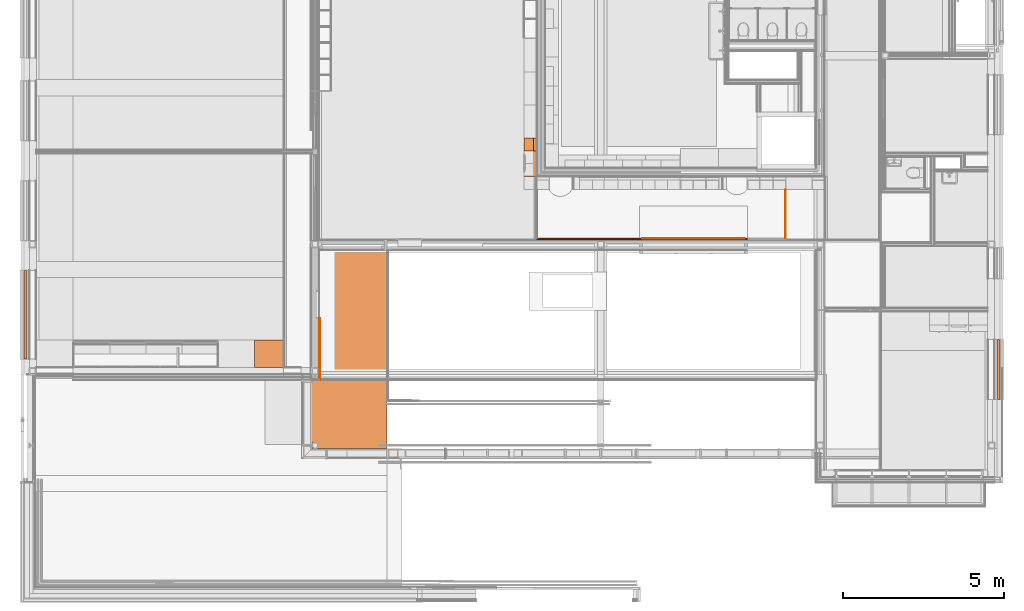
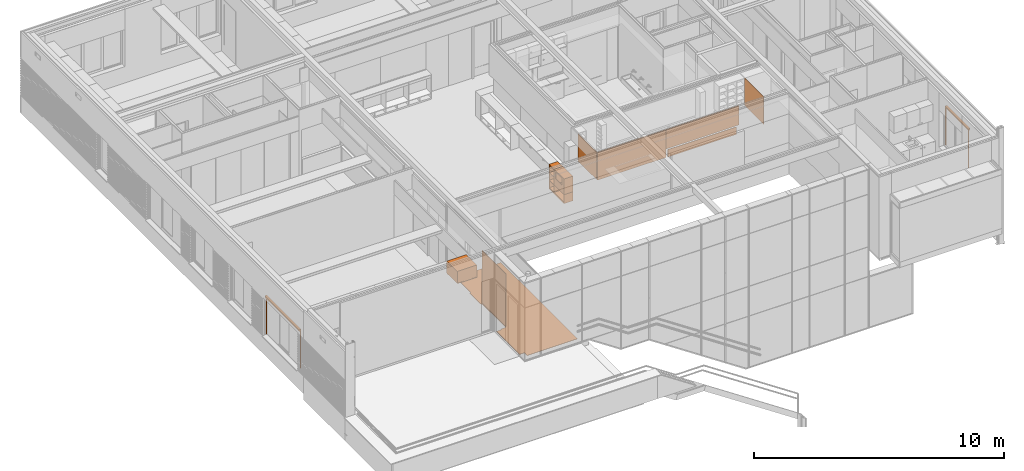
# One storey, part 127 of 137: 13 proxies.
"""IFC2X3 building model written with IfcOpenShell, lengths in millimetres."""

from ifc_helpers import new_model, entity, si_unit, converted_unit, derived_unit, money_unit, direction, frame, origin_with_axes, place, context, subcontext, project, spatial, open_shell, faceted_brep, surface_model, material, type_object, element, save


model = new_model("IFC2X3")

# Units and contexts
model_context = context("Model", 3, precision=0.01, world=origin_with_axes(), true_north=direction((0.0, 1.0)))
body_context = subcontext(model_context, "Body", "Model", "MODEL_VIEW")
ifc_project = project(units=[si_unit("LENGTHUNIT", "METRE", prefix="MILLI"), si_unit("AREAUNIT", "SQUARE_METRE"), si_unit("VOLUMEUNIT", "CUBIC_METRE"), converted_unit("PLANEANGLEUNIT", "DEGREE", entity("IfcPlaneAngleMeasure", 0.0174532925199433), si_unit("PLANEANGLEUNIT", "RADIAN"), dimensions=[0, 0, 0, 0, 0, 0, 0]), money_unit("EUR"), converted_unit("TIMEUNIT", "Year", entity("IfcTimeMeasure", 31556926.0), si_unit("TIMEUNIT", "SECOND"), dimensions=[0, 0, 1, 0, 0, 0, 0]), si_unit("MASSUNIT", "GRAM", prefix="KILO"), si_unit("THERMODYNAMICTEMPERATUREUNIT", "DEGREE_CELSIUS"), si_unit("LUMINOUSINTENSITYUNIT", "LUMEN"), si_unit("ENERGYUNIT", "JOULE", prefix="MEGA"), derived_unit("THERMALCONDUCTANCEUNIT", [(si_unit("POWERUNIT", "WATT"), 1), (si_unit("LENGTHUNIT", "METRE"), -1), (si_unit("THERMODYNAMICTEMPERATUREUNIT", "KELVIN"), -1)]), derived_unit("SPECIFICHEATCAPACITYUNIT", [(si_unit("ENERGYUNIT", "JOULE"), 1), (si_unit("MASSUNIT", "GRAM", prefix="KILO"), -1), (si_unit("THERMODYNAMICTEMPERATUREUNIT", "KELVIN"), -1)]), derived_unit("MASSDENSITYUNIT", [(si_unit("MASSUNIT", "GRAM", prefix="KILO"), 1), (si_unit("VOLUMEUNIT", "CUBIC_METRE"), -1)])], contexts=[model_context])

# Site, building, storey
site_placement = place(None, origin_with_axes())
site = spatial("IfcSite", under=ifc_project, at=site_placement, Name="Site", CompositionType="ELEMENT")
building_placement = place(site_placement, origin_with_axes())
building = spatial("IfcBuilding", under=site, at=building_placement, Name="Naam gebouw", CompositionType="ELEMENT")
storey_placement = place(building_placement, frame((0.0, 0.0, 3960.0), z_axis=(0.0, 0.0, 1.0), x_axis=(1.0, 0.0, 0.0)))
storey = spatial("IfcBuildingStorey", under=building, at=storey_placement, Name="1e verdieping", CompositionType="ELEMENT", Elevation=3960.0)

# Proxies
ifc_material_1 = material(Name="ALG - ALGEMEEN")
building_element_proxy_type_1 = type_object("IfcBuildingElementProxyType", Name="ALG - ALGEMEEN 20", PredefinedType="NOTDEFINED")
proxy_1_placement = place(storey_placement, frame((23414.99903999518, 10945.00011055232, 2190.0), z_axis=(0.0, 0.0, 1.0), x_axis=(0.0, 1.0, 0.0)))
element("IfcBuildingElementProxy", 1, at=proxy_1_placement, inside=storey, type_object=building_element_proxy_type_1, material=ifc_material_1, Name="_Wand-x", context=body_context, shape_type="Brep", body=[
    faceted_brep([(54.99999999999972, -19.99999999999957, 1337.000000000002), (1559.997671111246, -19.99999999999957, 1337.000000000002), (1559.997671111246, 0.0, 1337.000000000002), (54.99999999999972, 0.0, 1337.000000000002), (54.99999999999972, -19.99999999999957, 0.0), (1559.997671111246, -19.99999999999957, 0.0), (1559.997671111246, 0.0, 0.0), (54.99999999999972, 0.0, 0.0)], [[[0, 1, 2, 3]], [[4, 5, 1, 0]], [[2, 1, 5, 6]], [[3, 2, 6, 7]], [[4, 0, 3, 7]], [[7, 6, 5, 4]]]),
])
proxy_2_placement = place(storey_placement, frame((22154.99942456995, 11005.00011055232, 2150.0), z_axis=(0.0, 0.0, 1.0), x_axis=(-1.0, 0.0, 0.0)))
element("IfcBuildingElementProxy", 2, at=proxy_2_placement, inside=storey, type_object=building_element_proxy_type_1, material=ifc_material_1, Name="_Wand-x", context=body_context, shape_type="Brep", body=[
    faceted_brep([(0.0, 19.99999999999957, 0.0), (3165.000000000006, 19.99999999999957, 0.0), (3165.000000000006, 0.0, 0.0), (0.0, 0.0, 0.0), (0.0, 19.99999999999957, 360.0000000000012), (3165.000000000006, 19.99999999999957, 360.0000000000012), (3165.000000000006, 0.0, 360.0000000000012), (0.0, 0.0, 360.0000000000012)], [[[0, 1, 2, 3]], [[4, 5, 1, 0]], [[2, 1, 5, 6]], [[3, 2, 6, 7]], [[4, 0, 3, 7]], [[7, 6, 5, 4]]]),
])
proxy_3_placement = place(storey_placement, frame((15734.9994538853, 11000.00011055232, 2190.0), z_axis=(0.0, 0.0, 1.0), x_axis=(0.0, 1.0, 0.0)))
element("IfcBuildingElementProxy", 3, at=proxy_3_placement, inside=storey, type_object=building_element_proxy_type_1, material=ifc_material_1, Name="_Wand-x", context=body_context, shape_type="Brep", body=[
    faceted_brep([(0.0, 19.99999999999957, 0.0), (1504.997671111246, 19.99999999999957, 0.0), (1504.997671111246, 0.0, 0.0), (0.0, 0.0, 0.0), (0.0, 19.99999999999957, 1337.000000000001), (1504.997671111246, 19.99999999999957, 1337.000000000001), (1504.997671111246, 0.0, 1337.000000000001), (0.0, 0.0, 1337.000000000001)], [[[0, 1, 2, 3]], [[4, 5, 1, 0]], [[2, 1, 5, 6]], [[3, 2, 6, 7]], [[4, 0, 3, 7]], [[7, 6, 5, 4]]]),
])
proxy_4_placement = place(storey_placement, frame((8985.002391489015, 8520.000110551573, 49.99999999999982), z_axis=(0.0, 0.0, 1.0), x_axis=(0.0, -1.0, 0.0)))
element("IfcBuildingElementProxy", 4, at=proxy_4_placement, inside=storey, type_object=building_element_proxy_type_1, material=ifc_material_1, Name="_Wand-x", context=body_context, shape_type="Brep", body=[
    faceted_brep([(0.0, 19.99999999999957, 0.0), (1915.000110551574, 19.99999999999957, 0.0), (1915.000110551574, 0.0, 0.0), (0.0, 0.0, 0.0), (0.0, 19.99999999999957, 2550.0), (1915.000110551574, 19.99999999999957, 2550.0), (1915.000110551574, 0.0, 2550.0), (0.0, 0.0, 2550.0)], [[[0, 1, 2, 3]], [[4, 5, 1, 0]], [[2, 1, 5, 6]], [[3, 2, 6, 7]], [[4, 0, 3, 7]], [[7, 6, 5, 4]]]),
])
building_element_proxy_type_2 = type_object("IfcBuildingElementProxyType", Name="Onderkast recht 26", PredefinedType="NOTDEFINED")
proxy_5_placement = place(storey_placement, frame((15614.99945671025, 13704.99981121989, 49.99999999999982), z_axis=(0.0, 0.0, 1.0), x_axis=(0.0, -1.0, 0.0)))
element("IfcBuildingElementProxy", 5, at=proxy_5_placement, inside=storey, type_object=building_element_proxy_type_2, Name="_Leeg", context=body_context, shape_type="Brep", body=[
    faceted_brep([(-20.0, -300.0, 366.6666666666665), (-20.0, -300.0, 384.6666666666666), (-380.0000000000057, -300.0, 384.6666666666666), (-380.0000000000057, -300.0, 366.6666666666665), (-20.0, -20.0, 366.6666666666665), (-20.0, -20.0, 384.6666666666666), (-380.0000000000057, -20.0, 384.6666666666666), (-380.0000000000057, -20.0, 366.6666666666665)], [[[0, 1, 2, 3]], [[4, 5, 1, 0]], [[1, 5, 6, 2]], [[3, 2, 6, 7]], [[0, 3, 7, 4]], [[7, 6, 5, 4]]]),
    faceted_brep([(-20.0, -300.0, 743.3333333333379), (-20.0, -300.0, 761.3333333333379), (-380.0000000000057, -300.0, 761.3333333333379), (-380.0000000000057, -300.0, 743.3333333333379), (-20.0, -20.0, 743.3333333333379), (-20.0, -20.0, 761.3333333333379), (-380.0000000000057, -20.0, 761.3333333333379), (-380.0000000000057, -20.0, 743.3333333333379)], [[[0, 1, 2, 3]], [[4, 5, 1, 0]], [[1, 5, 6, 2]], [[3, 2, 6, 7]], [[0, 3, 7, 4]], [[7, 6, 5, 4]]]),
    faceted_brep([(-20.0, -300.0, 0.0), (-20.0, -300.0, 20.0), (-380.0000000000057, -300.0, 20.0), (-380.0000000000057, -300.0, 0.0), (-20.0, 0.0, 0.0), (-20.0, 0.0, 20.0), (-380.0000000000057, 0.0, 20.0), (-380.0000000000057, 0.0, 0.0)], [[[0, 1, 2, 3]], [[4, 5, 1, 0]], [[1, 5, 6, 2]], [[3, 2, 6, 7]], [[0, 3, 7, 4]], [[7, 6, 5, 4]]]),
    faceted_brep([(-20.0, -300.0, 1107.0), (-20.0, -300.0, 1127.0), (-380.0000000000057, -300.0, 1127.0), (-380.0000000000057, -300.0, 1107.0), (-20.0, 0.0, 1107.0), (-20.0, 0.0, 1127.0), (-380.0000000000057, 0.0, 1127.0), (-380.0000000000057, 0.0, 1107.0)], [[[0, 1, 2, 3]], [[4, 5, 1, 0]], [[1, 5, 6, 2]], [[3, 2, 6, 7]], [[0, 3, 7, 4]], [[7, 6, 5, 4]]]),
    faceted_brep([(0.0, 0.0, 0.0), (0.0, 0.0, 1127.0), (0.0, -300.0, 1127.0), (0.0, -300.0, 0.0), (-20.0, 0.0, 0.0), (-20.0, 0.0, 1127.0), (-20.0, -300.0, 1127.0), (-20.0, -300.0, 0.0)], [[[0, 1, 2, 3]], [[4, 5, 1, 0]], [[1, 5, 6, 2]], [[3, 2, 6, 7]], [[0, 3, 7, 4]], [[7, 6, 5, 4]]]),
    faceted_brep([(-400.0000000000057, -300.0, 0.0), (-400.0000000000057, -300.0, 1127.0), (-400.0000000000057, 0.0, 1127.0), (-400.0000000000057, 0.0, 0.0), (-380.0000000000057, -300.0, 0.0), (-380.0000000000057, -300.0, 1127.0), (-380.0000000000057, 0.0, 1127.0), (-380.0000000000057, 0.0, 0.0)], [[[0, 1, 2, 3]], [[4, 5, 1, 0]], [[1, 5, 6, 2]], [[3, 2, 6, 7]], [[0, 3, 7, 4]], [[7, 6, 5, 4]]]),
    faceted_brep([(-380.0000000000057, -10.0, 20.0), (-380.0000000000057, -10.0, 1107.0), (-20.00000000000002, -10.0, 1107.0), (-20.00000000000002, -10.0, 20.0), (-380.0000000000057, -20.0, 20.0), (-380.0000000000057, -20.0, 1107.0), (-20.00000000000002, -20.0, 1107.0), (-20.00000000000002, -20.0, 20.0)], [[[0, 1, 2, 3]], [[4, 5, 1, 0]], [[1, 5, 6, 2]], [[3, 2, 6, 7]], [[0, 3, 7, 4]], [[7, 6, 5, 4]]]),
])
proxy_6_placement = place(storey_placement, frame((6974.000707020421, 6993.999661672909, 2600.0), z_axis=(0.0, 0.0, 1.0), x_axis=(-1.0, 0.0, 0.0)))
element("IfcBuildingElementProxy", 6, at=proxy_6_placement, inside=storey, type_object=building_element_proxy_type_2, Name="_Leeg", context=body_context, shape_type="Brep", body=[
    faceted_brep([(-1.0, -827.0, 1.0), (-1.0, -845.0, 1.000000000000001), (-902.4992971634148, -845.0, 1.000000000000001), (-902.4992971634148, -827.0, 1.0), (-1.0, -827.0, 599.0), (-1.0, -845.0, 599.0), (-902.4992971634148, -845.0, 599.0), (-902.4992971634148, -827.0, 599.0)], [[[0, 1, 2, 3]], [[4, 5, 1, 0]], [[1, 5, 6, 2]], [[3, 2, 6, 7]], [[0, 3, 7, 4]], [[7, 6, 5, 4]]]),
    faceted_brep([(-18.0, -827.0, 0.0), (-18.0, -827.0, 18.0), (-885.4992971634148, -827.0, 18.0), (-885.4992971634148, -827.0, 0.0), (-18.0, 0.0, 0.0), (-18.0, 0.0, 18.0), (-885.4992971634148, 0.0, 18.0), (-885.4992971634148, 0.0, 0.0)], [[[0, 1, 2, 3]], [[4, 5, 1, 0]], [[1, 5, 6, 2]], [[3, 2, 6, 7]], [[0, 3, 7, 4]], [[7, 6, 5, 4]]]),
    faceted_brep([(-18.0, -827.0, 582.0), (-18.0, -827.0, 600.0), (-885.4992971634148, -827.0, 600.0), (-885.4992971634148, -827.0, 582.0), (-18.0, 0.0, 582.0), (-18.0, 0.0, 600.0), (-885.4992971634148, 0.0, 600.0), (-885.4992971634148, 0.0, 582.0)], [[[0, 1, 2, 3]], [[4, 5, 1, 0]], [[1, 5, 6, 2]], [[3, 2, 6, 7]], [[0, 3, 7, 4]], [[7, 6, 5, 4]]]),
    faceted_brep([(0.0, 0.0, 0.0), (0.0, 0.0, 600.0), (0.0, -827.0, 600.0), (0.0, -827.0, 0.0), (-18.0, 0.0, 0.0), (-18.0, 0.0, 600.0), (-18.0, -827.0, 600.0), (-18.0, -827.0, 0.0)], [[[0, 1, 2, 3]], [[4, 5, 1, 0]], [[1, 5, 6, 2]], [[3, 2, 6, 7]], [[0, 3, 7, 4]], [[7, 6, 5, 4]]]),
    faceted_brep([(-903.4992971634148, -827.0, 0.0), (-903.4992971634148, -827.0, 600.0), (-903.4992971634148, 0.0, 600.0), (-903.4992971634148, 0.0, 0.0), (-885.4992971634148, -827.0, 0.0), (-885.4992971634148, -827.0, 600.0), (-885.4992971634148, 0.0, 600.0), (-885.4992971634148, 0.0, 0.0)], [[[0, 1, 2, 3]], [[4, 5, 1, 0]], [[1, 5, 6, 2]], [[3, 2, 6, 7]], [[0, 3, 7, 4]], [[7, 6, 5, 4]]]),
    faceted_brep([(-885.4992971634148, -9.0, 18.0), (-885.4992971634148, -9.0, 582.0), (-18.00000000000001, -9.0, 582.0), (-18.00000000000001, -9.0, 18.0), (-885.4992971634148, -18.0, 18.0), (-885.4992971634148, -18.0, 582.0), (-18.00000000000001, -18.0, 582.0), (-18.00000000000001, -18.0, 18.0)], [[[0, 1, 2, 3]], [[4, 5, 1, 0]], [[1, 5, 6, 2]], [[3, 2, 6, 7]], [[0, 3, 7, 4]], [[7, 6, 5, 4]]]),
])
proxy_7_placement = place(storey_placement, frame((15714.99945671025, 12904.9998112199, 434.6666666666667), z_axis=(0.0, 0.0, 1.0), x_axis=(0.0, -1.0, 0.0)))
element("IfcBuildingElementProxy", 7, at=proxy_7_placement, inside=storey, type_object=building_element_proxy_type_2, Name="_Leeg", context=body_context, shape_type="Brep", body=[
    faceted_brep([(-695.0074674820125, -382.0000000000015, 705.3333336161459), (-155.0074674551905, -382.0000000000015, 705.3333336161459), (-155.0074677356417, -400.0000000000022, 705.3333333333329), (-695.0074677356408, -400.0000000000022, 705.3333333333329), (-268.1503248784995, -390.0000000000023, 705.3333333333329), (-268.1503248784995, -383.7500000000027, 705.3333333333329), (-286.1503248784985, -383.7500000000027, 705.3333333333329), (-286.1503248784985, -390.0000000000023, 705.3333333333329), (-191.0074677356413, -390.0000000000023, 705.3333333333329), (-191.0074677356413, -383.7500000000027, 705.3333333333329), (-227.0074677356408, -383.7500000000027, 705.3333333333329), (-227.0074677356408, -390.0000000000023, 705.3333333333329), (-229.5788963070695, -390.0000000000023, 705.3333333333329), (-229.5788963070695, -383.7500000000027, 705.3333333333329), (-265.5788963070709, -383.7500000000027, 705.3333333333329), (-265.5788963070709, -390.0000000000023, 705.3333333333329), (-21.0000000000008, -382.0000000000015, 744.3333333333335), (-21.0000000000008, -382.0000000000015, 20.99999999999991), (-779.0000000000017, -382.0000000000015, 20.99999999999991), (-779.0000000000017, -382.0000000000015, 744.3333333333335), (-155.0074674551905, -382.0000000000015, 365.3333330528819), (-695.0074674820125, -382.0000000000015, 365.3333330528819), (-155.0074677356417, -400.0000000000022, 365.3333333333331), (-779.0000000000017, -400.0000000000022, 20.99999999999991), (-21.0000000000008, -400.0000000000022, 20.99999999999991), (-21.0000000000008, -400.0000000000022, 744.3333333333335), (-779.0000000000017, -400.0000000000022, 744.3333333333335), (-695.0074677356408, -400.0000000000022, 365.3333333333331), (-268.1503248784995, -390.0000000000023, 706.9333333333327), (-268.1503248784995, -383.7500000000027, 706.9333333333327), (-286.1503248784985, -383.7500000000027, 706.9333333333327), (-286.1503248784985, -390.0000000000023, 706.9333333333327), (-191.0074677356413, -390.0000000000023, 706.9333333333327), (-191.0074677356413, -383.7500000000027, 706.9333333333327), (-227.0074677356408, -383.7500000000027, 706.9333333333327), (-227.0074677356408, -390.0000000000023, 706.9333333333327), (-229.5788963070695, -390.0000000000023, 706.9333333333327), (-229.5788963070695, -383.7500000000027, 706.9333333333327), (-265.5788963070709, -383.7500000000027, 706.9333333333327), (-265.5788963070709, -390.0000000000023, 706.9333333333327)], [[[0, 1, 2, 3], [4, 5, 6, 7], [8, 9, 10, 11], [12, 13, 14, 15]], [[16, 17, 18, 19], [20, 1, 0, 21]], [[1, 20, 22, 2]], [[23, 24, 25, 26], [22, 27, 3, 2]], [[21, 0, 3, 27]], [[5, 4, 28, 29]], [[6, 5, 29, 30]], [[7, 6, 30, 31]], [[4, 7, 31, 28]], [[9, 8, 32, 33]], [[10, 9, 33, 34]], [[11, 10, 34, 35]], [[8, 11, 35, 32]], [[13, 12, 36, 37]], [[14, 13, 37, 38]], [[15, 14, 38, 39]], [[12, 15, 39, 36]], [[17, 16, 25, 24]], [[18, 17, 24, 23]], [[19, 18, 23, 26]], [[16, 19, 26, 25]], [[20, 21, 27, 22]], [[30, 29, 28, 31]], [[34, 33, 32, 35]], [[38, 37, 36, 39]]]),
    faceted_brep([(-19.99999999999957, -9.999999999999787, 19.99999999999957), (-780.0000000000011, -9.999999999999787, 19.99999999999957), (-780.0000000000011, -9.999999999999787, 745.3333333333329), (-19.99999999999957, -9.999999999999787, 745.3333333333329), (-780.0000000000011, -19.99999999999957, 19.99999999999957), (-19.99999999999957, -19.99999999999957, 19.99999999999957), (-780.0000000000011, -19.99999999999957, 745.3333333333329), (-19.99999999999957, -19.99999999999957, 745.3333333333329)], [[[0, 1, 2, 3]], [[4, 1, 0, 5]], [[1, 4, 6, 2]], [[3, 2, 6, 7]], [[5, 0, 3, 7]], [[4, 5, 7, 6]]]),
    faceted_brep([(-780.0000000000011, -400.0000000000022, 745.3333333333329), (-19.99999999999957, -400.0000000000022, 745.3333333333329), (-19.99999999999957, -400.0000000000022, 765.3333333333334), (-780.0000000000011, -400.0000000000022, 765.3333333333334), (-19.99999999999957, 0.0, 745.3333333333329), (-780.0000000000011, 0.0, 745.3333333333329), (-19.99999999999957, 0.0, 765.3333333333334), (-780.0000000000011, 0.0, 765.3333333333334)], [[[0, 1, 2, 3]], [[4, 1, 0, 5]], [[1, 4, 6, 2]], [[3, 2, 6, 7]], [[5, 0, 3, 7]], [[4, 5, 7, 6]]]),
    faceted_brep([(0.0, -400.0000000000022, 0.0), (0.0, 0.0, 0.0), (0.0, 0.0, 765.3333333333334), (0.0, -400.0000000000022, 765.3333333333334), (-19.99999999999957, 0.0, 0.0), (-19.99999999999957, -400.0000000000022, 0.0), (-19.99999999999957, 0.0, 765.3333333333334), (-19.99999999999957, -400.0000000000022, 765.3333333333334)], [[[0, 1, 2, 3]], [[4, 1, 0, 5]], [[1, 4, 6, 2]], [[3, 2, 6, 7]], [[5, 0, 3, 7]], [[4, 5, 7, 6]]]),
    faceted_brep([(-800.0000000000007, 0.0, 0.0), (-800.0000000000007, -400.0000000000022, 0.0), (-800.0000000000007, -400.0000000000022, 765.3333333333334), (-800.0000000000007, 0.0, 765.3333333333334), (-780.0000000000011, -400.0000000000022, 0.0), (-780.0000000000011, 0.0, 0.0), (-780.0000000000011, -400.0000000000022, 765.3333333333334), (-780.0000000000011, 0.0, 765.3333333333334)], [[[0, 1, 2, 3]], [[4, 1, 0, 5]], [[1, 4, 6, 2]], [[3, 2, 6, 7]], [[5, 0, 3, 7]], [[4, 5, 7, 6]]]),
    faceted_brep([(-19.99999999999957, -400.0000000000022, 0.0), (-19.99999999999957, -400.0000000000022, 19.99999999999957), (-780.0000000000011, -400.0000000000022, 19.99999999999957), (-780.0000000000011, -400.0000000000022, 0.0), (-19.99999999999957, 0.0, 0.0), (-19.99999999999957, 0.0, 19.99999999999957), (-780.0000000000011, 0.0, 19.99999999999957), (-780.0000000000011, 0.0, 0.0)], [[[0, 1, 2, 3]], [[4, 5, 1, 0]], [[1, 5, 6, 2]], [[3, 2, 6, 7]], [[0, 3, 7, 4]], [[7, 6, 5, 4]]]),
])
proxy_8_placement = place(storey_placement, frame((15314.99945671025, 14104.9998112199, 0.0), z_axis=(0.0, 0.0, 1.0), x_axis=(0.0, 1.0, 0.0)))
element("IfcBuildingElementProxy", 8, at=proxy_8_placement, inside=storey, type_object=building_element_proxy_type_2, Name="_Leeg", context=body_context, shape_type="Brep", body=[
    faceted_brep([(-1180.000000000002, 0.0, 434.6666666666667), (-1180.000000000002, -400.0000000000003, 434.6666666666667), (-1180.0, -399.9999999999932, 49.99999999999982), (-1180.0, 0.0, 49.99999999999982), (-1200.000000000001, -400.0000000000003, 434.6666666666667), (-1200.000000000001, 0.0, 434.6666666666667), (-1199.999999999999, -399.9999999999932, 49.99999999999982), (-1199.999999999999, 0.0, 49.99999999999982)], [[[0, 1, 2, 3]], [[4, 1, 0, 5]], [[1, 4, 6, 2]], [[2, 6, 7, 3]], [[5, 0, 3, 7]], [[4, 5, 7, 6]]]),
    faceted_brep([(-400.0000000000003, 0.0, 1200.0), (-400.0000000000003, -400.0000000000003, 1200.0), (-19.99999999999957, -399.9999999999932, 1200.0), (-19.99999999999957, 0.0, 1200.0), (-400.0000000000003, -400.0000000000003, 1180.0), (-400.0000000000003, 0.0, 1180.0), (-19.99999999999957, -399.9999999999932, 1180.0), (-19.99999999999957, 0.0, 1180.0)], [[[0, 1, 2, 3]], [[4, 1, 0, 5]], [[1, 4, 6, 2]], [[6, 7, 3, 2]], [[5, 0, 3, 7]], [[4, 5, 7, 6]]]),
    faceted_brep([(0.0, -399.9999999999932, 49.99999999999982), (0.0, 0.0, 49.99999999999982), (0.0, 0.0, 1200.0), (0.0, -399.9999999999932, 1200.0), (-19.99999999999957, 0.0, 49.99999999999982), (-19.99999999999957, -399.9999999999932, 49.99999999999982), (-19.99999999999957, 0.0, 1200.0), (-19.99999999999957, -399.9999999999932, 1200.0)], [[[0, 1, 2, 3]], [[4, 1, 0, 5]], [[1, 4, 6, 2]], [[3, 2, 6, 7]], [[5, 0, 3, 7]], [[4, 5, 7, 6]]]),
    faceted_brep([(-19.99999999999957, -399.9999999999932, 49.99999999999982), (-19.99999999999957, -399.9999999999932, 70.00000000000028), (-1180.0, -399.9999999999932, 70.00000000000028), (-1180.0, -399.9999999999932, 49.99999999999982), (-19.99999999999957, 0.0, 49.99999999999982), (-19.99999999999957, 0.0, 70.00000000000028), (-1180.0, 0.0, 70.00000000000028), (-1180.0, 0.0, 49.99999999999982)], [[[0, 1, 2, 3]], [[4, 5, 1, 0]], [[1, 5, 6, 2]], [[3, 2, 6, 7]], [[0, 3, 7, 4]], [[7, 6, 5, 4]]]),
    faceted_brep([(0.0, -399.9999999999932, 0.0), (0.0, -399.9999999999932, 49.99999999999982), (-1199.999999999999, -399.9999999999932, 49.99999999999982), (-1199.999999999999, -399.9999999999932, 0.0), (0.0, 0.0, 0.0), (0.0, 0.0, 49.99999999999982), (-1199.999999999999, 0.0, 49.99999999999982), (-1199.999999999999, 0.0, 0.0)], [[[0, 1, 2, 3]], [[4, 5, 1, 0]], [[1, 5, 6, 2]], [[3, 2, 6, 7]], [[0, 3, 7, 4]], [[7, 6, 5, 4]]]),
])
building_element_proxy_type_3 = type_object("IfcBuildingElementProxyType", Name="Screen 26 KM", PredefinedType="NOTDEFINED")
proxy_9_placement = place(storey_placement, frame((29981.99999999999, 6005.997781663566, 794.9999999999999), z_axis=(0.0, 0.0, 1.0), x_axis=(0.0, 1.0, 0.0)))
element("IfcBuildingElementProxy", 9, at=proxy_9_placement, inside=storey, type_object=building_element_proxy_type_3, Name="_Object-x", context=body_context, shape_type="SurfaceModel", body=[
    faceted_brep([(0.0, 0.0, 0.0), (0.0, -30.0, 0.0), (0.0, -30.0, 1815.0), (0.0, 0.0, 1815.0), (40.0, 0.0, 0.0), (40.0, -4.999999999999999, 0.0), (37.0, -4.999999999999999, 0.0), (37.0, -3.0, 0.0), (3.0, -3.0, 0.0), (3.0, -27.0, 0.0), (37.0, -27.0, 0.0), (37.0, -25.0, 0.0), (40.0, -25.0, 0.0), (40.0, -30.0, 0.0), (40.0, -30.0, 1815.0), (40.0, -25.0, 1815.0), (37.0, -25.0, 1815.0), (37.0, -27.0, 1815.0), (3.0, -27.0, 1815.0), (3.0, -3.0, 1815.0), (37.0, -3.0, 1815.0), (37.0, -4.999999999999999, 1815.0), (40.0, -4.999999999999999, 1815.0), (40.0, 0.0, 1815.0)], [[[0, 1, 2, 3]], [[0, 4, 5, 6, 7, 8, 9, 10, 11, 12, 13, 1]], [[1, 13, 14, 2]], [[3, 2, 14, 15, 16, 17, 18, 19, 20, 21, 22, 23]], [[4, 0, 3, 23]], [[5, 4, 23, 22]], [[6, 5, 22, 21]], [[7, 6, 21, 20]], [[8, 7, 20, 19]], [[9, 8, 19, 18]], [[10, 9, 18, 17]], [[11, 10, 17, 16]], [[12, 11, 16, 15]], [[13, 12, 15, 14]]]),
    faceted_brep([(1849.999999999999, 0.0, 0.0), (1849.999999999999, 0.0, 1815.0), (1849.999999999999, -30.0, 1815.0), (1849.999999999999, -30.0, 0.0), (1809.999999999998, 0.0, 0.0), (1809.999999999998, 0.0, 1815.0), (1809.999999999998, -4.999999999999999, 1815.0), (1812.999999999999, -4.999999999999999, 1815.0), (1812.999999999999, -3.0, 1815.0), (1846.999999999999, -3.0, 1815.0), (1846.999999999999, -27.0, 1815.0), (1812.999999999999, -27.0, 1815.0), (1812.999999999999, -25.0, 1815.0), (1809.999999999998, -25.0, 1815.0), (1809.999999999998, -30.0, 1815.0), (1809.999999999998, -30.0, 0.0), (1809.999999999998, -25.0, 0.0), (1812.999999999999, -25.0, 0.0), (1812.999999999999, -27.0, 0.0), (1846.999999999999, -27.0, 0.0), (1846.999999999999, -3.0, 0.0), (1812.999999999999, -3.0, 0.0), (1812.999999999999, -4.999999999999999, 0.0), (1809.999999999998, -4.999999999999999, 0.0)], [[[0, 1, 2, 3]], [[4, 5, 1, 0]], [[1, 5, 6, 7, 8, 9, 10, 11, 12, 13, 14, 2]], [[3, 2, 14, 15]], [[0, 3, 15, 16, 17, 18, 19, 20, 21, 22, 23, 4]], [[23, 6, 5, 4]], [[22, 7, 6, 23]], [[21, 8, 7, 22]], [[20, 9, 8, 21]], [[19, 10, 9, 20]], [[18, 11, 10, 19]], [[17, 12, 11, 18]], [[16, 13, 12, 17]], [[15, 14, 13, 16]]]),
    surface_model("IfcShellBasedSurfaceModel", [(0.0, 0.0, 1900.0), (0.0, 0.0, 1815.0), (0.0, -85.0, 1815.0), (0.0, -85.0, 1900.0)], [open_shell([[[0, 1, 2, 3]]])]),
    surface_model("IfcShellBasedSurfaceModel", [(0.01, 0.0, 1900.0), (0.009999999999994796, -85.0, 1900.0), (1849.989999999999, -85.00000000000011, 1900.0), (1849.989999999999, 0.0, 1900.0), (0.01000000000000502, 0.0, 1818.0), (0.01000000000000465, -6.0, 1818.0), (0.01000000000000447, -6.0, 1821.0), (0.01000000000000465, -3.0, 1821.0), (0.01, -3.0, 1897.0), (0.009999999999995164, -82.0, 1897.0), (0.01, -82.0, 1818.0), (0.01000000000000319, -30.0, 1818.0), (0.01000000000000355, -30.0, 1812.0), (0.01000000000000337, -33.0, 1812.0), (0.01000000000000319, -33.0, 1815.0), (0.01, -85.0, 1815.0), (1849.989999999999, -85.00000000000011, 1815.0), (1849.989999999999, -33.00000000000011, 1815.0), (1849.989999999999, -33.00000000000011, 1812.0), (1849.989999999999, -30.00000000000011, 1812.0), (1849.989999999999, -30.00000000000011, 1818.0), (1849.989999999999, -82.00000000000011, 1818.0), (1849.989999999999, -82.00000000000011, 1897.0), (1849.989999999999, -3.000000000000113, 1897.0), (1849.989999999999, -3.000000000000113, 1821.0), (1849.989999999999, -6.000000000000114, 1821.0), (1849.989999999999, -6.000000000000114, 1818.0), (1849.989999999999, 0.0, 1818.0)], [open_shell([[[0, 1, 2, 3]], [[0, 4, 5, 6, 7, 8, 9, 10, 11, 12, 13, 14, 15, 1]], [[1, 15, 16, 2]], [[3, 2, 16, 17, 18, 19, 20, 21, 22, 23, 24, 25, 26, 27]], [[4, 0, 3, 27]], [[13, 12, 19, 18]], [[14, 13, 18, 17]], [[15, 14, 17, 16]]])]),
    surface_model("IfcShellBasedSurfaceModel", [(1849.989999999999, 0.0, 1900.0), (1849.989999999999, 0.0, 1815.0), (1849.989999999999, -85.00000000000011, 1815.0), (1849.989999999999, -85.00000000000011, 1900.0)], [open_shell([[[0, 1, 2, 3]]])]),
])
proxy_10_placement = place(storey_placement, frame((-82.00000000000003, 10005.0, 794.9999999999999), z_axis=(0.0, 0.0, 1.0), x_axis=(0.0, -1.0, 0.0)))
element("IfcBuildingElementProxy", 10, at=proxy_10_placement, inside=storey, type_object=building_element_proxy_type_3, Name="_Object-x", context=body_context, shape_type="SurfaceModel", body=[
    faceted_brep([(0.0, 0.0, 0.0), (0.0, -30.0, 0.0), (0.0, -30.0, 1815.0), (0.0, 0.0, 1815.0), (40.0, 0.0, 0.0), (40.0, -4.999999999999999, 0.0), (37.0, -4.999999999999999, 0.0), (37.0, -3.0, 0.0), (3.0, -3.0, 0.0), (3.0, -27.0, 0.0), (37.0, -27.0, 0.0), (37.0, -25.0, 0.0), (40.0, -25.0, 0.0), (40.0, -30.0, 0.0), (40.0, -30.0, 1815.0), (40.0, -25.0, 1815.0), (37.0, -25.0, 1815.0), (37.0, -27.0, 1815.0), (3.0, -27.0, 1815.0), (3.0, -3.0, 1815.0), (37.0, -3.0, 1815.0), (37.0, -4.999999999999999, 1815.0), (40.0, -4.999999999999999, 1815.0), (40.0, 0.0, 1815.0)], [[[0, 1, 2, 3]], [[0, 4, 5, 6, 7, 8, 9, 10, 11, 12, 13, 1]], [[1, 13, 14, 2]], [[3, 2, 14, 15, 16, 17, 18, 19, 20, 21, 22, 23]], [[4, 0, 3, 23]], [[5, 4, 23, 22]], [[6, 5, 22, 21]], [[7, 6, 21, 20]], [[8, 7, 20, 19]], [[9, 8, 19, 18]], [[10, 9, 18, 17]], [[11, 10, 17, 16]], [[12, 11, 16, 15]], [[13, 12, 15, 14]]]),
    faceted_brep([(2750.0, 0.0, 0.0), (2750.0, 0.0, 1815.0), (2750.0, -30.0, 1815.0), (2750.0, -30.0, 0.0), (2710.0, 0.0, 0.0), (2710.0, 0.0, 1815.0), (2710.0, -4.999999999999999, 1815.0), (2713.0, -4.999999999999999, 1815.0), (2713.0, -3.0, 1815.0), (2747.0, -3.0, 1815.0), (2747.0, -27.0, 1815.0), (2713.0, -27.0, 1815.0), (2713.0, -25.0, 1815.0), (2710.0, -25.0, 1815.0), (2710.0, -30.0, 1815.0), (2710.0, -30.0, 0.0), (2710.0, -25.0, 0.0), (2713.0, -25.0, 0.0), (2713.0, -27.0, 0.0), (2747.0, -27.0, 0.0), (2747.0, -3.0, 0.0), (2713.0, -3.0, 0.0), (2713.0, -4.999999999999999, 0.0), (2710.0, -4.999999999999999, 0.0)], [[[0, 1, 2, 3]], [[4, 5, 1, 0]], [[1, 5, 6, 7, 8, 9, 10, 11, 12, 13, 14, 2]], [[3, 2, 14, 15]], [[0, 3, 15, 16, 17, 18, 19, 20, 21, 22, 23, 4]], [[23, 6, 5, 4]], [[22, 7, 6, 23]], [[21, 8, 7, 22]], [[20, 9, 8, 21]], [[19, 10, 9, 20]], [[18, 11, 10, 19]], [[17, 12, 11, 18]], [[16, 13, 12, 17]], [[15, 14, 13, 16]]]),
    surface_model("IfcShellBasedSurfaceModel", [(0.0, 0.0, 1900.0), (0.0, 0.0, 1815.0), (0.0, -85.0, 1815.0), (0.0, -85.0, 1900.0)], [open_shell([[[0, 1, 2, 3]]])]),
    surface_model("IfcShellBasedSurfaceModel", [(0.01, 0.0, 1900.0), (0.009999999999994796, -85.0, 1900.0), (2749.989999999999, -85.00000000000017, 1900.0), (2749.989999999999, 0.0, 1900.0), (0.01000000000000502, 0.0, 1818.0), (0.01000000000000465, -6.0, 1818.0), (0.01000000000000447, -6.0, 1821.0), (0.01000000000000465, -3.0, 1821.0), (0.01, -3.0, 1897.0), (0.009999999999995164, -82.0, 1897.0), (0.01, -82.0, 1818.0), (0.01000000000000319, -30.0, 1818.0), (0.01000000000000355, -30.0, 1812.0), (0.01000000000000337, -33.0, 1812.0), (0.01000000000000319, -33.0, 1815.0), (0.01, -85.0, 1815.0), (2749.989999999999, -85.00000000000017, 1815.0), (2749.989999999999, -33.00000000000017, 1815.0), (2749.989999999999, -33.00000000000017, 1812.0), (2749.989999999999, -30.00000000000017, 1812.0), (2749.989999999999, -30.00000000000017, 1818.0), (2749.989999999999, -82.00000000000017, 1818.0), (2749.989999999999, -82.00000000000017, 1897.0), (2749.989999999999, -3.000000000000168, 1897.0), (2749.989999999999, -3.000000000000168, 1821.0), (2749.989999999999, -6.000000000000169, 1821.0), (2749.989999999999, -6.000000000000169, 1818.0), (2749.989999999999, 0.0, 1818.0)], [open_shell([[[0, 1, 2, 3]], [[0, 4, 5, 6, 7, 8, 9, 10, 11, 12, 13, 14, 15, 1]], [[1, 15, 16, 2]], [[3, 2, 16, 17, 18, 19, 20, 21, 22, 23, 24, 25, 26, 27]], [[4, 0, 3, 27]], [[13, 12, 19, 18]], [[14, 13, 18, 17]], [[15, 14, 17, 16]]])]),
    surface_model("IfcShellBasedSurfaceModel", [(2749.989999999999, 0.0, 1900.0), (2749.989999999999, 0.0, 1815.0), (2749.989999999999, -85.00000000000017, 1815.0), (2749.989999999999, -85.00000000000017, 1900.0)], [open_shell([[[0, 1, 2, 3]]])]),
])
ifc_material_2 = material(Name="Vloerafwerking - schoonloopzone 3")
building_element_proxy_type_4 = type_object("IfcBuildingElementProxyType", Name="Vloerafwerking - schoonloopzone 3 15", PredefinedType="NOTDEFINED")
proxy_11_placement = place(storey_placement, frame((8525.011865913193, 6554.999995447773, -9.999999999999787), z_axis=(0.0, 0.0, 1.0), x_axis=(1.0, 0.0, 0.0)))
element("IfcBuildingElementProxy", 11, at=proxy_11_placement, inside=storey, type_object=building_element_proxy_type_4, material=ifc_material_2, Name="_43 marmoleum", context=body_context, shape_type="Brep", body=[
    faceted_brep([(0.0, 0.0, 14.99999999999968), (0.0, 0.0, 0.0), (3.753056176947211e-05, -1854.999991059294, 0.0), (3.753056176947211e-05, -1854.999991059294, 14.99999999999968), (224.9999999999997, 4.552226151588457e-06, 14.99999999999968), (224.9999999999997, 4.552226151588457e-06, 0.0), (224.9999966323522, 49.99984446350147, 0.0), (459.9890778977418, 50.00000455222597, 0.0), (459.9905255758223, 1945.000030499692, 0.0), (409.9905255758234, 1945.0001151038, 0.0), (409.9905255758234, 2845.000115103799, 0.0), (459.9905255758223, 2845.000115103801, 0.0), (459.9905255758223, 4065.000115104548, 0.0), (2550.033726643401, 4065.000115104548, 0.0), (2550.033726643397, -2074.999995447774, 0.0), (225.0014443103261, -2074.999995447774, 0.0), (225.0000375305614, -1854.999986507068, 0.0), (225.0000375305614, -1854.999986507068, 14.99999999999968), (225.0014443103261, -2074.999995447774, 14.99999999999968), (2550.033726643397, -2074.999995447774, 14.99999999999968), (2550.033726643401, 4065.000115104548, 14.99999999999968), (459.9905255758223, 4065.000115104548, 14.99999999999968), (459.9905255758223, 2845.000115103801, 14.99999999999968), (409.9905255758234, 2845.000115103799, 14.99999999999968), (409.9905255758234, 1945.0001151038, 14.99999999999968), (459.9905255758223, 1945.000030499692, 14.99999999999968), (459.9890778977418, 50.00000455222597, 14.99999999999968), (224.9999966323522, 49.99984446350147, 14.99999999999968)], [[[0, 1, 2, 3]], [[4, 5, 1, 0]], [[2, 1, 5, 6, 7, 8, 9, 10, 11, 12, 13, 14, 15, 16]], [[3, 2, 16, 17]], [[4, 0, 3, 17, 18, 19, 20, 21, 22, 23, 24, 25, 26, 27]], [[27, 6, 5, 4]], [[26, 7, 6, 27]], [[25, 8, 7, 26]], [[24, 9, 8, 25]], [[23, 10, 9, 24]], [[22, 11, 10, 23]], [[21, 12, 11, 22]], [[20, 13, 12, 21]], [[19, 14, 13, 20]], [[18, 15, 14, 19]], [[17, 16, 15, 18]]]),
])
building_element_proxy_type_5 = type_object("IfcBuildingElementProxyType", Name="ALG - ALGEMEEN 55", PredefinedType="NOTDEFINED")
proxy_12_placement = place(storey_placement, frame((18894.99942456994, 10945.00011055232, 2600.0), z_axis=(0.0, 0.0, 1.0), x_axis=(1.0, 0.0, 0.0)))
element("IfcBuildingElementProxy", 12, at=proxy_12_placement, inside=storey, type_object=building_element_proxy_type_5, material=ifc_material_1, Name="_Wand-x", context=body_context, shape_type="Brep", body=[
    faceted_brep([(0.0, 54.99999999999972, 0.0), (3355.000000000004, 54.99999999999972, 0.0), (3355.000000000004, 0.0, 0.0), (0.0, 0.0, 0.0), (0.0, 54.99999999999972, 927.0000000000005), (3355.000000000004, 54.99999999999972, 927.0000000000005), (3355.000000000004, 0.0, 927.0000000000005), (0.0, 0.0, 927.0000000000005)], [[[0, 1, 2, 3]], [[4, 5, 1, 0]], [[2, 1, 5, 6]], [[3, 2, 6, 7]], [[4, 0, 3, 7]], [[7, 6, 5, 4]]]),
])
proxy_13_placement = place(storey_placement, frame((15714.9994538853, 10945.00011055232, 2100.0), z_axis=(0.0, 0.0, 1.0), x_axis=(1.0, 0.0, 0.0)))
element("IfcBuildingElementProxy", 13, at=proxy_13_placement, inside=storey, type_object=building_element_proxy_type_5, material=ifc_material_1, Name="_Wand-x", context=body_context, shape_type="Brep", body=[
    faceted_brep([(3179.999970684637, 0.0, 1427.0), (3179.999970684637, -8.24791950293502e-05, 89.99999999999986), (3179.999970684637, 54.99999999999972, 89.99999999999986), (3179.999970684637, 54.99999999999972, 1427.0), (0.0, 0.0, 1427.0), (0.0, -8.24791950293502e-05, 89.99999999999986), (0.0, 54.99999999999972, 89.99999999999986), (0.0, 54.99999999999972, 1427.0)], [[[0, 1, 2, 3]], [[4, 5, 1, 0]], [[5, 6, 2, 1]], [[3, 2, 6, 7]], [[7, 4, 0, 3]], [[7, 6, 5, 4]]]),
])

save(model, "model.ifc")
